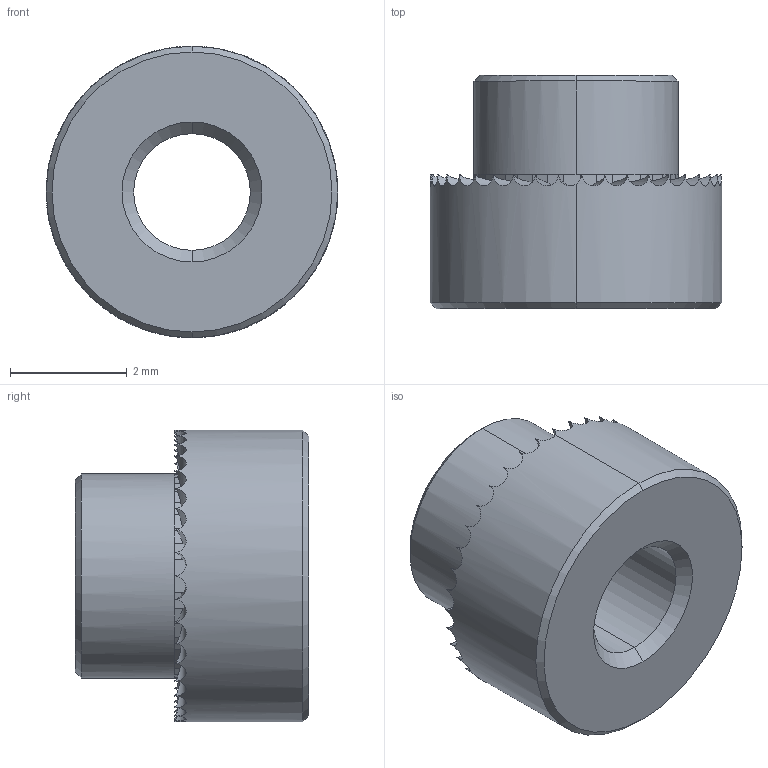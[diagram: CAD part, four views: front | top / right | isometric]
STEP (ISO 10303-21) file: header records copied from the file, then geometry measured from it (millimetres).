
FILE_DESCRIPTION (( 'STEP AP203' ), '1' );
FILE_NAME ('P0829.020-18G-ZP.step', '2019-03-21T22:09:12', ( '' ), ( '' ), 'SwSTEP 2.0', 'SolidWorks 2017', '' );
FILE_SCHEMA (( 'CONFIG_CONTROL_DESIGN' ));
Length unit declared in the file: millimetre
Products named in the file (1): P0829.020-18G-ZP
Bounding box: 5 x 4 x 5 mm (x, y, z)
Volume: 46.9 mm3; surface area: 111.9 mm2
Topology: 1 solids, 1 shells, 172 faces, 424 edges, 254 vertices
Faces by surface type: plane 119, cylinder 45, cone 8
Entity records: 5343 total; most frequent: CARTESIAN_POINT 1317, ORIENTED_EDGE 848, DIRECTION 825, EDGE_CURVE 424, AXIS2_PLACEMENT_3D 308, VERTEX_POINT 254, VECTOR 209, LINE 209
